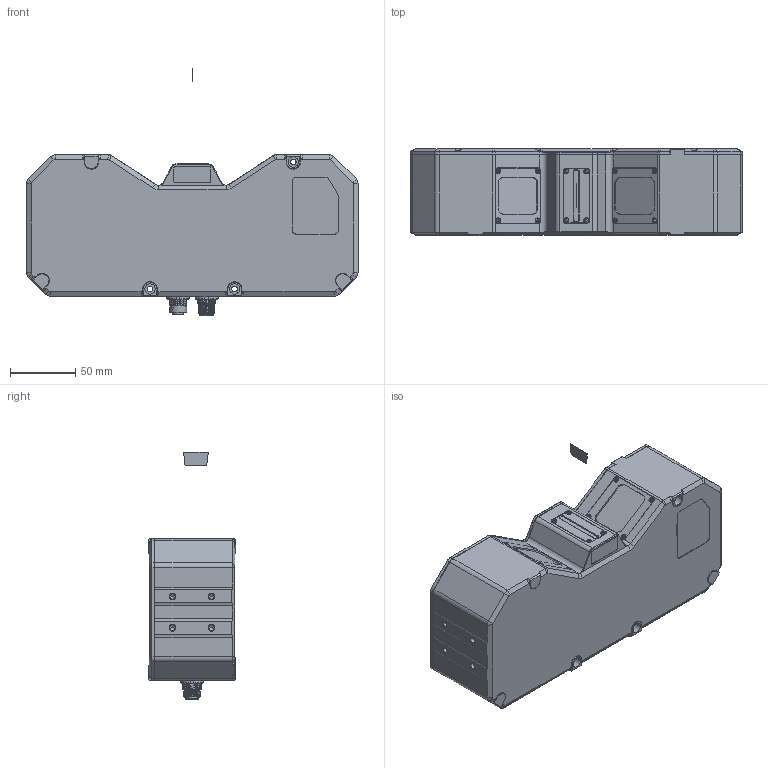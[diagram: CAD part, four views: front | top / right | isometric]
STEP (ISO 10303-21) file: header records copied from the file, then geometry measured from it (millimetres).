
FILE_DESCRIPTION((''),'2;1');
FILE_NAME('MV-DP3062-01D','2025-07-23T18:48:01',('shiqiangsheng5'),(''),'CREO PARAMETRIC BY PTC INC, 2020044','CREO PARAMETRIC BY PTC INC, 2020044','');
FILE_SCHEMA(('CONFIG_CONTROL_DESIGN'));
Products named in the file (1): MV-DP3062-01D
Bounding box: 255 x 67 x 190.1 mm (x, y, z)
Surface area: 105953.8 mm2 (no closed solid volume)
Topology: 0 solids, 60 shells, 1007 faces, 3355 edges, 2307 vertices
Faces by surface type: plane 444, cylinder 277, cone 172, torus 73, bspline 41
Entity records: 58024 total; most frequent: CARTESIAN_POINT 30099, DIRECTION 5555, ORIENTED_EDGE 5390, EDGE_CURVE 3325, VERTEX_POINT 2307, AXIS2_PLACEMENT_3D 1909, VECTOR 1737, LINE 1737
